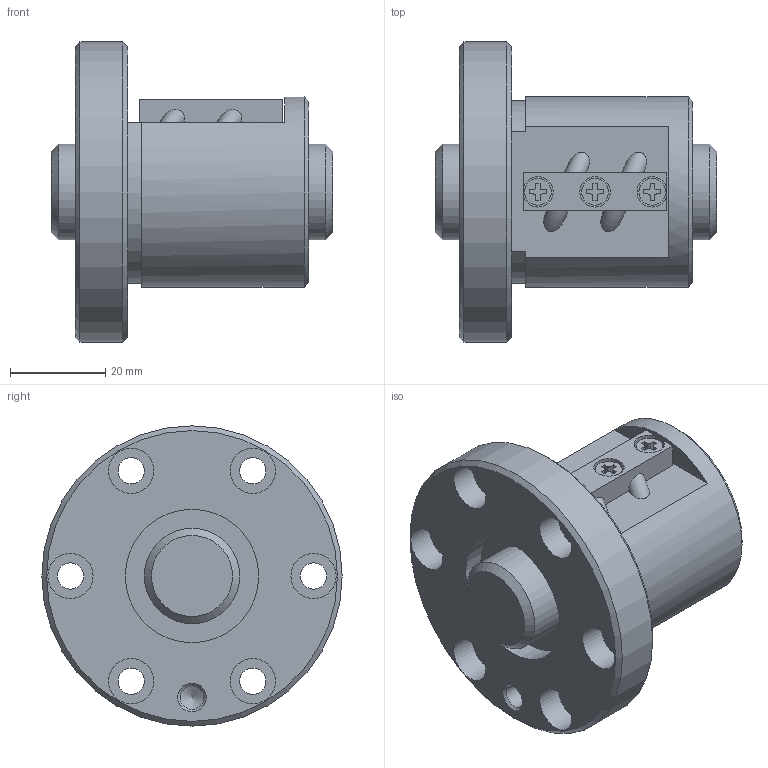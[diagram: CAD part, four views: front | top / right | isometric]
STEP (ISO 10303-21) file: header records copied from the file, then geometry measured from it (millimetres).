
FILE_DESCRIPTION(/* description */ ('STEP AP203'),/* implementation_level */ '2;1');
FILE_NAME(/* name */ 'SBN2004V-5G0+59LC0(0000)',/* time_stamp */ '2024-05-28T10:24:13+02:00',/* author */ ('License CC BY-ND 4.0'),/* organization */ ('CADENAS'),/* preprocessor_version */ 'ST-DEVELOPER v19.3',/* originating_system */ 'PARTsolutions',/* authorisation */ ' ');
FILE_SCHEMA (('CONFIG_CONTROL_DESIGN'));
Length unit declared in the file: millimetre
Products named in the file (3): SBN2004V-5G0+59LC0(0000); N010SBN2004V-50Shaft; N00SBN2004V-5Nut
Assembly tree (2 placements, depth 2):
  SBN2004V-5G0+59LC0(0000)
    N010SBN2004V-50Shaft
    N00SBN2004V-5Nut
Bounding box: 59 x 63 x 63 mm (x, y, z)
Volume: 76285.6 mm3; surface area: 22138.8 mm2
Topology: 2 solids, 2 shells, 121 faces, 285 edges, 188 vertices
Faces by surface type: plane 69, cylinder 41, cone 7, torus 4
Full cylindrical faces by diameter (mm): 4.8 x3, 4.917 x1, 5.5 x6, 5.6 x3, 6.4 x1, 9.5 x6, 20 x2, 28 x2, 40 x1, 63 x1
Entity records: 3459 total; most frequent: CARTESIAN_POINT 639, DIRECTION 578, ORIENTED_EDGE 498, EDGE_CURVE 249, AXIS2_PLACEMENT_3D 213, FACE_BOUND 189, EDGE_LOOP 188, VERTEX_POINT 186
